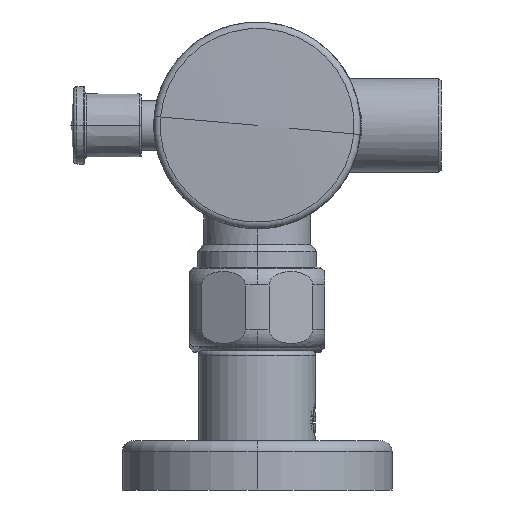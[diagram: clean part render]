
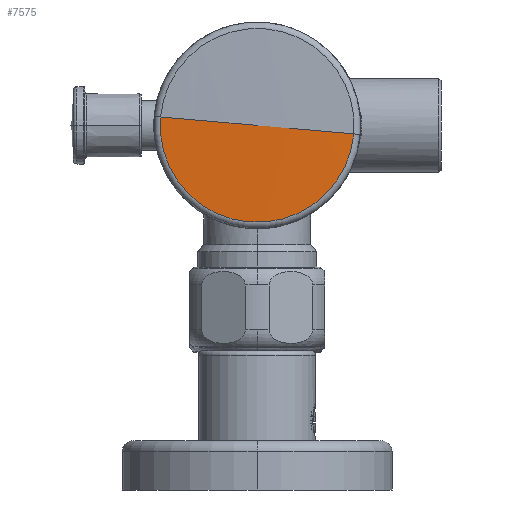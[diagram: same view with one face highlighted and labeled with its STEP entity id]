
A CAD part, left-side view. The second image highlights one B-rep face of the part: STEP entity #7575.
In plain terms, the highlighted spherical face has radius 500 mm.
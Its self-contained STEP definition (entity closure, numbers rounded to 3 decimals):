
#2839=CARTESIAN_POINT('',(-146.435,0.,0.));
#2840=DIRECTION('',(-1.,0.,0.));
#2841=DIRECTION('',(0.,0.996,0.087));
#2842=AXIS2_PLACEMENT_3D('',#2839,#2840,#2841);
#2844=CARTESIAN_POINT('',(353.1,0.,0.));
#2845=DIRECTION('',(0.,-0.087,0.996));
#2846=DIRECTION('',(-0.999,0.043,0.004));
#2847=AXIS2_PLACEMENT_3D('',#2844,#2845,#2846);
#2849=CARTESIAN_POINT('',(353.1,0.,0.));
#2850=DIRECTION('',(0.,0.087,-0.996));
#2851=DIRECTION('',(-0.999,-0.043,-0.004));
#2852=AXIS2_PLACEMENT_3D('',#2849,#2850,#2851);
#4840=CARTESIAN_POINT('',(-146.435,21.483,1.879));
#4841=CARTESIAN_POINT('',(-146.435,-21.483,
-1.879));
#4842=VERTEX_POINT('',#4840);
#4843=VERTEX_POINT('',#4841);
#4848=CARTESIAN_POINT('',(-146.9,0.,0.));
#4849=VERTEX_POINT('',#4848);
#7564=CARTESIAN_POINT('',(353.1,0.,0.));
#7565=DIRECTION('',(1.,0.,0.));
#7566=DIRECTION('',(0.,-0.996,-0.087));
#7567=AXIS2_PLACEMENT_3D('',#7564,#7565,#7566);
#7568=SPHERICAL_SURFACE('',#7567,500.);
#7570=ORIENTED_EDGE('',*,*,#7569,.F.);
#7571=ORIENTED_EDGE('',*,*,#7559,.T.);
#7572=ORIENTED_EDGE('',*,*,#7557,.F.);
#7573=EDGE_LOOP('',(#7570,#7571,#7572));
#7574=FACE_OUTER_BOUND('',#7573,.F.);
#7575=ADVANCED_FACE('',(#7574),#7568,.T.);
#2843=CIRCLE('',#2842,21.565);
#2848=CIRCLE('',#2847,500.);
#2853=CIRCLE('',#2852,500.);
#7557=EDGE_CURVE('',#4843,#4849,#2853,.T.);
#7559=EDGE_CURVE('',#4842,#4849,#2848,.T.);
#7569=EDGE_CURVE('',#4842,#4843,#2843,.T.);
